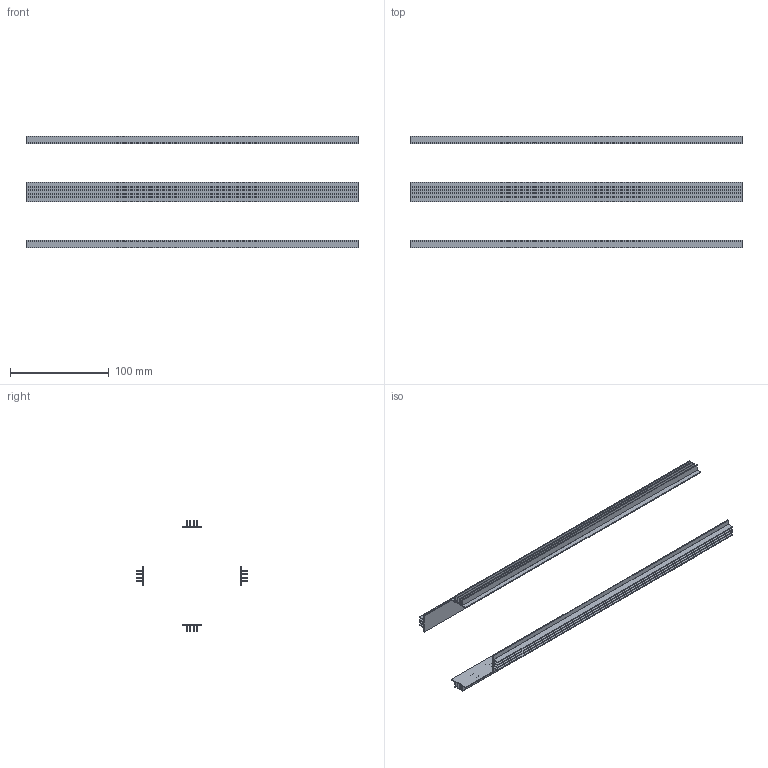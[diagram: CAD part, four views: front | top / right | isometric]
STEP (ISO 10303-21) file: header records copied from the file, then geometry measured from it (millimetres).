
FILE_DESCRIPTION(('Open CASCADE Model'),'2;1');
FILE_NAME('Open CASCADE Shape Model','2026-08-13T21:24:41',('Author'),( 'Open CASCADE'),'Open CASCADE STEP processor 7.7','Open CASCADE 7.7' ,'Unknown');
FILE_SCHEMA(('AUTOMOTIVE_DESIGN { 1 0 10303 214 1 1 1 1 }'));
Length unit declared in the file: millimetre
Products named in the file (37): Open CASCADE STEP translator 7.7 1; Open CASCADE STEP translator 7.7 1.1; Open CASCADE STEP translator 7.7 1.2; Open CASCADE STEP translator 7.7 1.3; Open CASCADE STEP translator 7.7 1.4; Open CASCADE STEP translator 7.7 1.5; Open CASCADE STEP translator 7.7 1.6; Open CASCADE STEP translator 7.7 1.7; Open CASCADE STEP translator 7.7 1.8; Open CASCADE STEP translator 7.7 1.9; Open CASCADE STEP translator 7.7 1.10; Open CASCADE STEP translator 7.7 1.11; Open CASCADE STEP translator 7.7 1.12; Open CASCADE STEP translator 7.7 1.13; Open CASCADE STEP translator 7.7 1.14; Open CASCADE STEP translator 7.7 1.15; Open CASCADE STEP translator 7.7 1.16; Open CASCADE STEP translator 7.7 1.17; Open CASCADE STEP translator 7.7 1.18; Open CASCADE STEP translator 7.7 1.19; Open CASCADE STEP translator 7.7 1.20; Open CASCADE STEP translator 7.7 1.21; Open CASCADE STEP translator 7.7 1.22; Open CASCADE STEP translator 7.7 1.23; Open CASCADE STEP translator 7.7 1.24; Open CASCADE STEP translator 7.7 1.25; Open CASCADE STEP translator 7.7 1.26; Open CASCADE STEP translator 7.7 1.27; Open CASCADE STEP translator 7.7 1.28; Open CASCADE STEP translator 7.7 1.29; Open CASCADE STEP translator 7.7 1.30; Open CASCADE STEP translator 7.7 1.31; Open CASCADE STEP translator 7.7 1.32; Open CASCADE STEP translator 7.7 1.33; Open CASCADE STEP translator 7.7 1.34; Open CASCADE STEP translator 7.7 1.35; Open CASCADE STEP translator 7.7 1.36
Assembly tree (36 placements, depth 2):
  Open CASCADE STEP translator 7.7 1
    Open CASCADE STEP translator 7.7 1.1
    Open CASCADE STEP translator 7.7 1.2
    Open CASCADE STEP translator 7.7 1.3
    Open CASCADE STEP translator 7.7 1.4
    Open CASCADE STEP translator 7.7 1.5
    Open CASCADE STEP translator 7.7 1.6
    Open CASCADE STEP translator 7.7 1.7
    Open CASCADE STEP translator 7.7 1.8
    Open CASCADE STEP translator 7.7 1.9
    Open CASCADE STEP translator 7.7 1.10
    Open CASCADE STEP translator 7.7 1.11
    Open CASCADE STEP translator 7.7 1.12
    Open CASCADE STEP translator 7.7 1.13
    Open CASCADE STEP translator 7.7 1.14
    Open CASCADE STEP translator 7.7 1.15
    Open CASCADE STEP translator 7.7 1.16
    Open CASCADE STEP translator 7.7 1.17
    Open CASCADE STEP translator 7.7 1.18
    Open CASCADE STEP translator 7.7 1.19
    Open CASCADE STEP translator 7.7 1.20
    Open CASCADE STEP translator 7.7 1.21
    Open CASCADE STEP translator 7.7 1.22
    Open CASCADE STEP translator 7.7 1.23
    Open CASCADE STEP translator 7.7 1.24
    Open CASCADE STEP translator 7.7 1.25
    Open CASCADE STEP translator 7.7 1.26
    Open CASCADE STEP translator 7.7 1.27
    Open CASCADE STEP translator 7.7 1.28
    Open CASCADE STEP translator 7.7 1.29
    Open CASCADE STEP translator 7.7 1.30
    Open CASCADE STEP translator 7.7 1.31
    Open CASCADE STEP translator 7.7 1.32
    Open CASCADE STEP translator 7.7 1.33
    Open CASCADE STEP translator 7.7 1.34
    Open CASCADE STEP translator 7.7 1.35
    Open CASCADE STEP translator 7.7 1.36
Bounding box: 336 x 112.5 x 112.5 mm (x, y, z)
Volume: 60480 mm3; surface area: 201960 mm2
Topology: 36 solids, 36 shells, 216 faces, 432 edges, 288 vertices
Faces by surface type: plane 216
Entity records: 11680 total; most frequent: CARTESIAN_POINT 1837, DIRECTION 1802, LINE 1296, VECTOR 1296, ORIENTED_EDGE 864, PCURVE 864, DEFINITIONAL_REPRESENTATION 864, EDGE_CURVE 432
